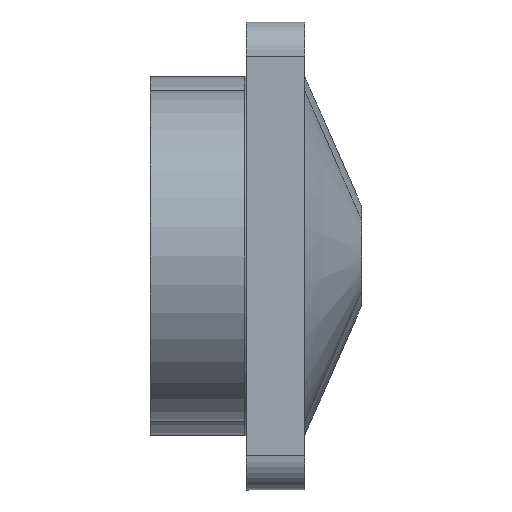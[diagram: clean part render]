
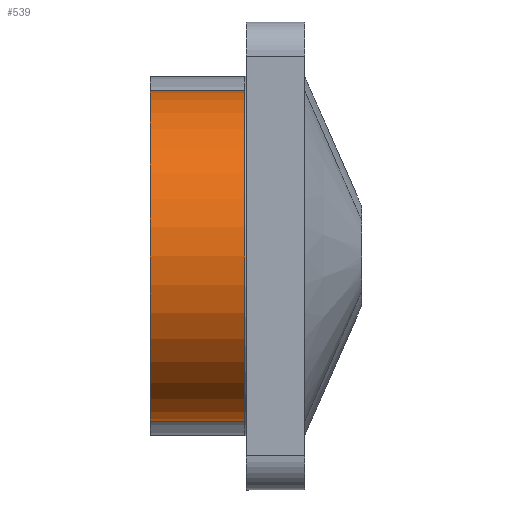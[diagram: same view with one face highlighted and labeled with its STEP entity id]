
A CAD part, left-side view. The second image highlights one B-rep face of the part: STEP entity #539.
In plain terms, the highlighted cylindrical face has radius 29 mm (diameter 58 mm), a partial arc.
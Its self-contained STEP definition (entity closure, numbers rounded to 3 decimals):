
#53 = CARTESIAN_POINT ( 'NONE',  ( 42., 6.5, -41. ) ) ;
#67 = CARTESIAN_POINT ( 'NONE',  ( 42., 4., -12. ) ) ;
#82 = DIRECTION ( 'NONE',  ( 0., -1., 0. ) ) ;
#84 = DIRECTION ( 'NONE',  ( 0., 1., 0. ) ) ;
#85 = CARTESIAN_POINT ( 'NONE',  ( 42., 23.021, -41. ) ) ;
#87 = DIRECTION ( 'NONE',  ( 0., 0., -1. ) ) ;
#103 = DIRECTION ( 'NONE',  ( 0., 1., 0. ) ) ;
#171 = CARTESIAN_POINT ( 'NONE',  ( 42., 4., -70. ) ) ;
#173 = DIRECTION ( 'NONE',  ( 0., 1., 0. ) ) ;
#174 = DIRECTION ( 'NONE',  ( 0., 0., 1. ) ) ;
#201 = EDGE_CURVE ( 'NONE', #1209, #1142, #1660, .T. ) ;
#214 = EDGE_CURVE ( 'NONE', #1167, #1198, #1580, .T. ) ;
#250 = EDGE_CURVE ( 'NONE', #1209, #1167, #1458, .T. ) ;
#251 = EDGE_CURVE ( 'NONE', #1198, #1142, #1679, .T. ) ;
#324 = AXIS2_PLACEMENT_3D ( 'NONE', #783, #784, #719 ) ;
#357 = CARTESIAN_POINT ( 'NONE',  ( 42., 23.021, -70. ) ) ;
#412 = CARTESIAN_POINT ( 'NONE',  ( 42., 6.5, -12. ) ) ;
#470 = AXIS2_PLACEMENT_3D ( 'NONE', #85, #84, #87 ) ;
#471 = AXIS2_PLACEMENT_3D ( 'NONE', #53, #82, #174 ) ;
#539 = ADVANCED_FACE ( 'NONE', ( #1560 ), #1621, .T. ) ;
#583 = CARTESIAN_POINT ( 'NONE',  ( 42., 23.021, -12. ) ) ;
#719 = DIRECTION ( 'NONE',  ( 0., 0., 1. ) ) ;
#783 = CARTESIAN_POINT ( 'NONE',  ( 42., 4., -41. ) ) ;
#784 = DIRECTION ( 'NONE',  ( 0., 1., 0. ) ) ;
#838 = CARTESIAN_POINT ( 'NONE',  ( 42., 6.5, -70. ) ) ;
#966 = ORIENTED_EDGE ( 'NONE', *, *, #250, .F. ) ;
#989 = ORIENTED_EDGE ( 'NONE', *, *, #251, .F. ) ;
#1019 = ORIENTED_EDGE ( 'NONE', *, *, #214, .F. ) ;
#1142 = VERTEX_POINT ( 'NONE', #583 ) ;
#1167 = VERTEX_POINT ( 'NONE', #838 ) ;
#1198 = VERTEX_POINT ( 'NONE', #357 ) ;
#1206 = EDGE_LOOP ( 'NONE', ( #1019, #966, #1619, #989 ) ) ;
#1209 = VERTEX_POINT ( 'NONE', #412 ) ;
#1458 = CIRCLE ( 'NONE', #471, 29. ) ;
#1560 = FACE_OUTER_BOUND ( 'NONE', #1206, .T. ) ;
#1561 = VECTOR ( 'NONE', #173, 1000. ) ;
#1580 = LINE ( 'NONE', #171, #1561 ) ;
#1619 = ORIENTED_EDGE ( 'NONE', *, *, #201, .T. ) ;
#1621 = CYLINDRICAL_SURFACE ( 'NONE', #324, 29. ) ;
#1646 = VECTOR ( 'NONE', #103, 1000. ) ;
#1660 = LINE ( 'NONE', #67, #1646 ) ;
#1679 = CIRCLE ( 'NONE', #470, 29. ) ;
